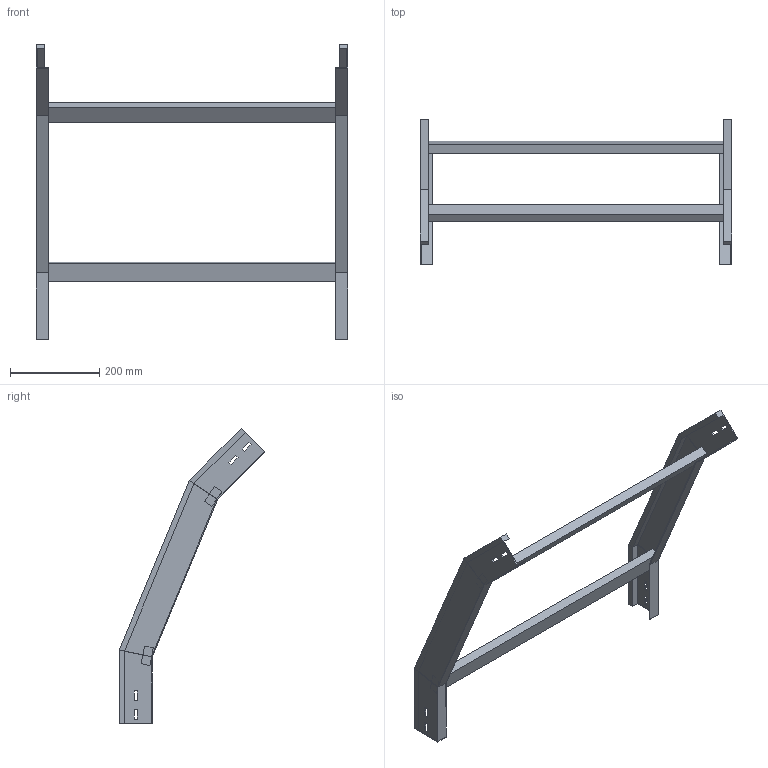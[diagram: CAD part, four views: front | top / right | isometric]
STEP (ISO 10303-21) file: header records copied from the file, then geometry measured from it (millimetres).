
FILE_DESCRIPTION (( 'STEP AP214' ), '1' );
FILE_NAME ('34B5C700.step', '2025-02-21T14:54:34', ( '' ), ( '' ), 'SwSTEP 2.0', 'SolidWorks 2023', '' );
FILE_SCHEMA (( 'AUTOMOTIVE_DESIGN' ));
Length unit declared in the file: millimetre
Products named in the file (3): LONGH.DISCESA_45°_H75_R500; 34B5C700; TRAVERSINO_700
Assembly tree (5 placements, depth 2):
  34B5C700
    LONGH.DISCESA_45°_H75_R500  x2
    TRAVERSINO_700  x3
Bounding box: 700 x 327.63 x 662.94 mm (x, y, z)
Volume: 2254400.1 mm3; surface area: 592698.9 mm2
Topology: 5 solids, 5 shells, 102 faces, 244 edges, 152 vertices
Faces by surface type: plane 102
Entity records: 1480 total; most frequent: CARTESIAN_POINT 244, ORIENTED_EDGE 232, DIRECTION 228, VECTOR 116, EDGE_CURVE 116, LINE 116, VERTEX_POINT 72, AXIS2_PLACEMENT_3D 56
